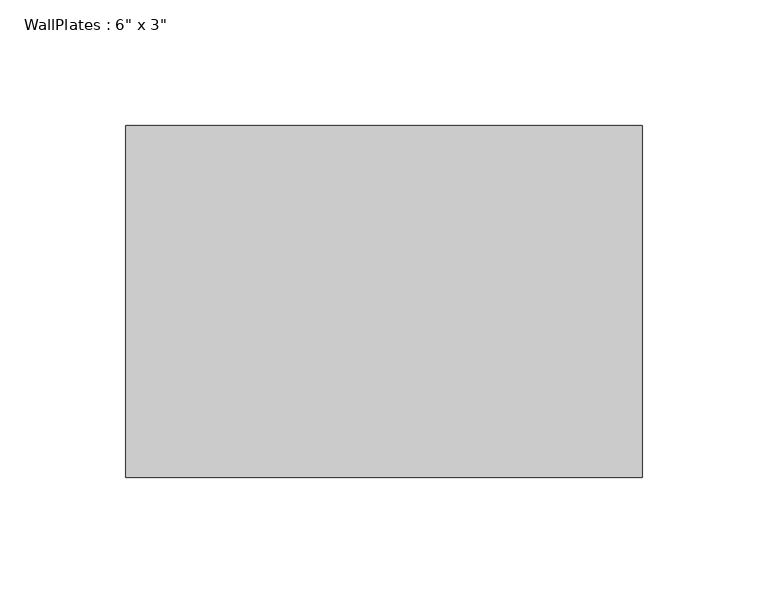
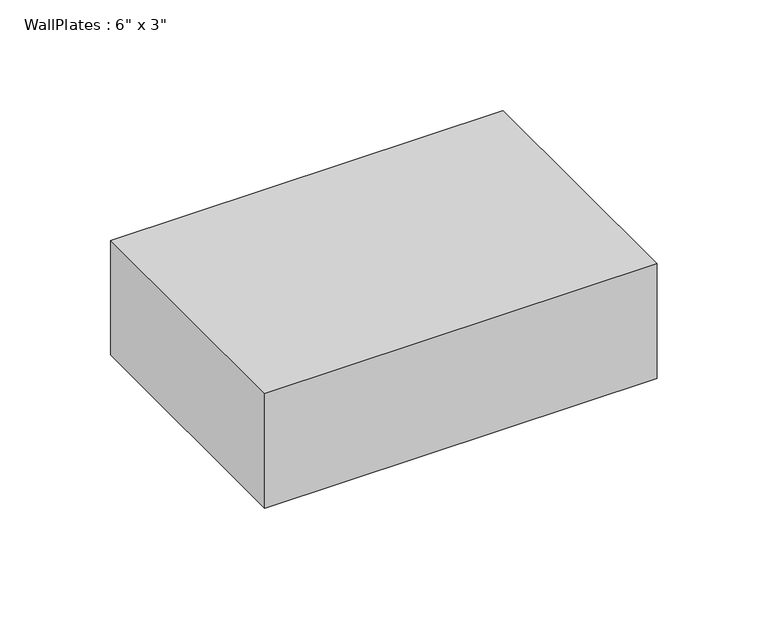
"""IFC4 building model written with IfcOpenShell, lengths in millimetres: beam geometry."""

from ifc_helpers import new_model, si_unit, frame, origin, place, context, project, spatial, polyline, outline, extrude, source, transform, mapped, element, save


def beam_15675283(model_context):
    return source(origin(), model_context, "Body", "SweptSolid", [
        extrude(outline(polyline([(-102.5404396, -69.85), (-102.5404396, 69.85), (102.5404396, 69.85), (102.5404396, -69.85), (-102.5404396, -69.85)])), frame((0.0, 0.0, -31.75), z_axis=(0.0, 0.0, 1.0), x_axis=(1.0, 0.0, 0.0)), (0.0, 0.0, 1.0), 63.5),
    ])


if __name__ == "__main__":
    model = new_model("IFC4")
    model_context = context("Model", 3, world=origin())
    ifc_project = project(units=[si_unit("LENGTHUNIT", "METRE", prefix="MILLI")], contexts=[model_context])
    site = spatial("IfcSite", under=ifc_project)
    building = spatial("IfcBuilding", under=site)
    placement = place(None, origin())
    beam_shape = beam_15675283(model_context)
    element("IfcBeam", 1, ObjectType="WallPlates : 6\" x 3\"", at=placement, inside=building, context=model_context, shape_type="MappedRepresentation", body=[
        mapped(beam_shape, transform((0.0, 0.0, 0.0), x_axis=(1.0, 0.0, 0.0), y_axis=(0.0, 1.0, 0.0), z_axis=(0.0, 0.0, 1.0))),
    ])
    save(model, "model.ifc")
